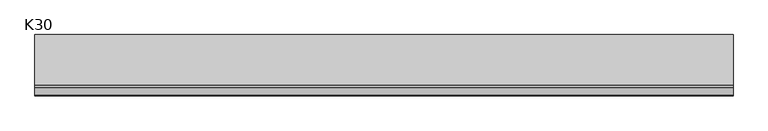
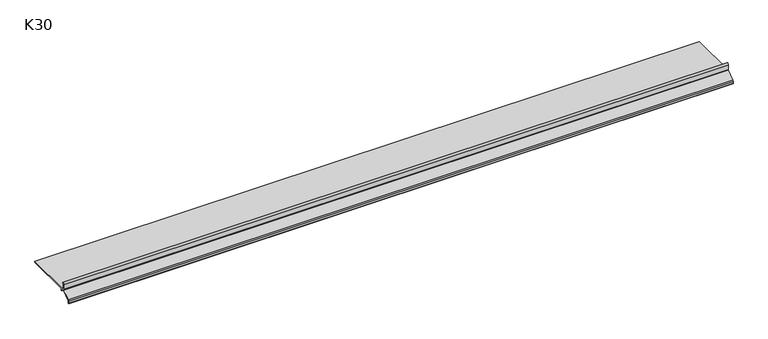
"""IFC4 building model written with IfcOpenShell, lengths in millimetres: proxy geometry, K30 Profil okapowy prosty : K30."""

from ifc_helpers import new_model, si_unit, frame, origin, place, context, project, spatial, polyline, circle_curve, source, transform, mapped, element, save
from ifc_brep_helpers import plane_surface, cylinder_surface, revolved_surface, advanced_brep


def k30_a010585c(model_context):
    return source(origin(), model_context, "Body", "AdvancedBrep", [
        advanced_brep(
        [(0.0, 91.6460788, -13.5016844), (0.0, 91.6460788, -15.1970829), (0.0, 5.0074458, -15.1970829), (0.0, 5.0074458, -19.1975491), (0.0, 4.0074458, -19.1975491), (0.0, 4.0074458, -15.1975491), (0.0, -2.7771023, -15.1975491), (0.0, -16.2971103, -25.3819245), (0.0, -17.0937577, -26.9794046), (0.0, -17.0937577, -30.413733), (0.0, -18.7937577, -30.413733), (0.0, -18.7937577, -26.6303216), (0.0, -17.5987866, -24.2341015), (0.0, -3.2334641, -13.4129661), (0.0, -2.800002, -12.5354797), (0.0, -2.800002, -2.7535764), (0.0, 0.0, 0.0), (0.0, 0.0, -1.79984), (0.0, -0.9925542, -2.7625682), (0.0, -0.9925542, -13.5016844), (1252.7368814, 91.6460788, -13.5016844), (1252.7368814, -0.9925542, -13.5016844), (1252.7368814, -0.9925542, -2.7625682), (1252.7368814, 0.0, -1.79984), (1252.7368814, 0.0, 0.0), (1252.7368814, -2.7996151, -2.7535764), (1252.7368814, -2.800002, -12.5354797), (1252.7368814, -3.2334641, -13.4129661), (1252.7368814, -17.5987866, -24.2341015), (1252.7368814, -18.7937577, -26.6303216), (1252.7368814, -18.7937577, -30.413733), (1252.7368814, -17.0937577, -30.413733), (1252.7368814, -17.0937577, -26.9794046), (1252.7368814, -16.2971103, -25.3819245), (1252.7368814, -2.7771023, -15.1975491), (1252.7368814, 4.0074458, -15.1975491), (1252.7368814, 4.0074458, -19.1975491), (1252.7368814, 5.0074458, -19.1975491), (1252.7368814, 5.0074458, -15.1970829), (1252.7368814, 91.6460788, -15.1970829)],
        [
            (0, 1),
            (1, 2),
            (2, 3),
            (3, 4),
            (4, 5),
            (5, 6),
            (6, 7),
            (7, 8, circle_curve(frame((0.0, -15.0937577, -26.9794046), z_axis=(1.0, 0.0, 0.0), x_axis=(0.0, -0.6016762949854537, 0.7987400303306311)), 2.0)),
            (8, 9),
            (9, 10, circle_curve(frame((0.0, -17.9437577, -30.413733), z_axis=(-1.0, 0.0, 0.0), x_axis=(0.0, 1.0, -1.0699937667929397e-12)), 0.85)),
            (10, 11),
            (11, 12, circle_curve(frame((0.0, -15.7937577, -26.6303216), z_axis=(-1.0, 0.0, 0.0), x_axis=(0.0, -1.0, 0.0)), 3.0)),
            (12, 13),
            (13, 14, circle_curve(frame((0.0, -3.8882646, -12.5437023), z_axis=(1.0, 0.0, 0.0), x_axis=(0.0, 0.6016762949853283, -0.7987400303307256)), 1.0882937)),
            (14, 15),
            (15, 16, circle_curve(frame((0.0, -0.0455531, -2.7536853), z_axis=(-1.0, 0.0, 0.0), x_axis=(0.0, -0.9999999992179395, 3.954897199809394e-05)), 2.754062)),
            (16, 17),
            (17, 18, circle_curve(frame((0.0, -0.0049314, -2.7877721), z_axis=(1.0, 0.0, 0.0), x_axis=(0.0, 0.004991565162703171, 0.9999875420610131)), 0.9879444)),
            (18, 19),
            (19, 0),
            (20, 21),
            (21, 22),
            (22, 23, circle_curve(frame((1252.7368814, -0.0049314, -2.7877721), z_axis=(-1.0, 0.0, 0.0), x_axis=(0.0, 0.004991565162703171, 0.9999875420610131)), 0.9879444)),
            (23, 24),
            (24, 25, circle_curve(frame((1252.7368814, -0.0455531, -2.7536853), z_axis=(1.0, 0.0, 0.0), x_axis=(0.0, -0.9999999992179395, 3.954897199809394e-05)), 2.754062)),
            (25, 26),
            (26, 27, circle_curve(frame((1252.7368814, -3.8882646, -12.5437023), z_axis=(-1.0, 0.0, 0.0), x_axis=(0.0, 0.6016762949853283, -0.7987400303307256)), 1.0882937)),
            (27, 28),
            (28, 29, circle_curve(frame((1252.7368814, -15.7937577, -26.6303216), z_axis=(1.0, 0.0, 0.0), x_axis=(0.0, -1.0, 0.0)), 3.0)),
            (29, 30),
            (30, 31, circle_curve(frame((1252.7368814, -17.9437577, -30.413733), z_axis=(1.0, 0.0, 0.0), x_axis=(0.0, 1.0, -1.0699937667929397e-12)), 0.85)),
            (31, 32),
            (32, 33, circle_curve(frame((1252.7368814, -15.0937577, -26.9794046), z_axis=(-1.0, 0.0, 0.0), x_axis=(0.0, -0.6016762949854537, 0.7987400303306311)), 2.0)),
            (33, 34),
            (34, 35),
            (35, 36),
            (36, 37),
            (37, 38),
            (38, 39),
            (39, 20),
            (19, 21),
            (20, 0),
            (39, 1),
            (38, 2),
            (37, 3),
            (36, 4),
            (35, 5),
            (34, 6),
            (33, 7),
            (32, 8),
            (31, 9),
            (30, 10),
            (29, 11),
            (28, 12),
            (27, 13),
            (26, 14),
            (25, 15),
            (24, 16),
            (23, 17),
            (22, 18),
        ],
        [
            plane_surface(frame((0.0, 0.0, 0.0), z_axis=(-1.0, 0.0, 0.0), x_axis=(0.0, 0.0, 1.0))),
            plane_surface(frame((1252.7368814, 0.0, 0.0), z_axis=(1.0, 0.0, 0.0), x_axis=(0.0, 0.0, 1.0))),
            plane_surface(frame((0.0, -0.9925542, -13.5016844), z_axis=(0.0, 0.0, 1.0), x_axis=(1.0, 0.0, 0.0))),
            plane_surface(frame((0.0, 91.6460788, -13.5016844), z_axis=(0.0, 1.0, 0.0), x_axis=(1.0, 0.0, 0.0))),
            plane_surface(frame((0.0, 91.6460788, -15.1970829), z_axis=(0.0, 0.0, -1.0), x_axis=(1.0, 0.0, 0.0))),
            plane_surface(frame((0.0, 5.0074458, -15.1970829), z_axis=(0.0, 1.0, 0.0), x_axis=(1.0, 0.0, 0.0))),
            plane_surface(frame((0.0, 5.0074458, -19.1975491), z_axis=(0.0, 0.0, -1.0), x_axis=(1.0, 0.0, 0.0))),
            plane_surface(frame((0.0, 4.0074458, -19.1975491), z_axis=(0.0, -1.0, 0.0), x_axis=(1.0, 0.0, 0.0))),
            plane_surface(frame((0.0, 4.0074458, -15.1975491), z_axis=(0.0, 0.0, -1.0), x_axis=(1.0, 0.0, 0.0))),
            plane_surface(frame((0.0, -2.7771023, -15.1975491), z_axis=(0.0, 0.6016762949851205, -0.798740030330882), x_axis=(1.0, 0.0, 0.0))),
            revolved_surface(polyline([(1252.7368814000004, -16.297110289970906, -25.381924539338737), (0.0, -16.297110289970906, -25.381924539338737)]), (0.0, -15.0937577, -26.9794046), (1.0000000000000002, 0.0, 0.0)),
            plane_surface(frame((0.0, -17.0937577, -26.9794046), z_axis=(0.0, 1.0, 0.0), x_axis=(1.0, 0.0, 0.0))),
            cylinder_surface(frame((0.0, -17.9437577, -30.413733), z_axis=(-1.0, 0.0, 0.0), x_axis=(0.0, 1.0, -1.0699937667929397e-12)), 0.85),
            plane_surface(frame((0.0, -18.7937577, -30.413733), z_axis=(0.0, -1.0, 0.0), x_axis=(1.0, 0.0, 0.0))),
            cylinder_surface(frame((0.0, -15.7937577, -26.6303216), z_axis=(-1.0, 0.0, 0.0), x_axis=(0.0, -1.0, 0.0)), 3.0),
            plane_surface(frame((0.0, -17.5987866, -24.2341015), z_axis=(0.0, -0.6016762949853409, 0.7987400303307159), x_axis=(1.0, 0.0, 0.0))),
            revolved_surface(polyline([(1252.7368814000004, -3.2334640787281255, -13.412966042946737), (0.0, -3.2334640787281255, -13.412966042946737)]), (0.0, -3.8882646, -12.5437023), (1.0000000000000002, 0.0, 0.0)),
            plane_surface(frame((0.0, -2.800002, -12.5354797), z_axis=(0.0, -1.0, 0.0), x_axis=(1.0, 0.0, 0.0))),
            cylinder_surface(frame((0.0, -0.0455531, -2.7536853), z_axis=(-1.0000000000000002, 0.0, 0.0), x_axis=(0.0, -0.9999999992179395, 3.954897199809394e-05)), 2.754062),
            plane_surface(frame((0.0, 0.0, 0.0), z_axis=(0.0, 1.0, 0.0), x_axis=(1.0, 0.0, 0.0))),
            revolved_surface(polyline([(1252.7368814, -1.115027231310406e-08, -1.799840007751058), (0.0, -1.115027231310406e-08, -1.799840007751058)]), (0.0, -0.0049314, -2.7877721), (1.0, 0.0, 0.0)),
            plane_surface(frame((0.0, -0.9925542, -2.7625682), z_axis=(0.0, 1.0, 0.0), x_axis=(1.0, 0.0, 0.0))),
        ],
        [
            (0, [[1, 2, 3, 4, 5, 6, 7, 8, 9, 10, 11, 12, 13, 14, 15, 16, 17, 18, 19, 20]]),
            (1, [[21, 22, 23, 24, 25, 26, 27, 28, 29, 30, 31, 32, 33, 34, 35, 36, 37, 38, 39, 40]]),
            (2, [[-20, 41, -21, 42]]),
            (3, [[-1, -42, -40, 43]]),
            (4, [[-2, -43, -39, 44]]),
            (5, [[-3, -44, -38, 45]]),
            (6, [[-4, -45, -37, 46]]),
            (7, [[-5, -46, -36, 47]]),
            (8, [[-6, -47, -35, 48]]),
            (9, [[-7, -48, -34, 49]]),
            (10, [[-8, -49, -33, 50]]),
            (11, [[-9, -50, -32, 51]]),
            (12, [[-10, -51, -31, 52]]),
            (13, [[-11, -52, -30, 53]]),
            (14, [[-12, -53, -29, 54]]),
            (15, [[-13, -54, -28, 55]]),
            (16, [[-14, -55, -27, 56]]),
            (17, [[-15, -56, -26, 57]]),
            (18, [[-16, -57, -25, 58]]),
            (19, [[-17, -58, -24, 59]]),
            (20, [[-18, -59, -23, 60]]),
            (21, [[-19, -60, -22, -41]]),
        ],
    ),
    ])


if __name__ == "__main__":
    model = new_model("IFC4")
    model_context = context("Model", 3, world=origin())
    ifc_project = project(units=[si_unit("LENGTHUNIT", "METRE", prefix="MILLI")], contexts=[model_context])
    site = spatial("IfcSite", under=ifc_project)
    building = spatial("IfcBuilding", under=site)
    placement = place(None, origin())
    k30_shape = k30_a010585c(model_context)
    element("IfcBuildingElementProxy", 1, Name="K30 Profil okapowy prosty : K30", ObjectType="K30 Profil okapowy prosty : K30", at=placement, inside=building, context=model_context, shape_type="MappedRepresentation", body=[
        mapped(k30_shape, transform((0.0, 0.0, 0.0), x_axis=(1.0, 0.0, 0.0), y_axis=(0.0, 1.0, 0.0), z_axis=(0.0, 0.0, 1.0))),
    ])
    save(model, "model.ifc")
